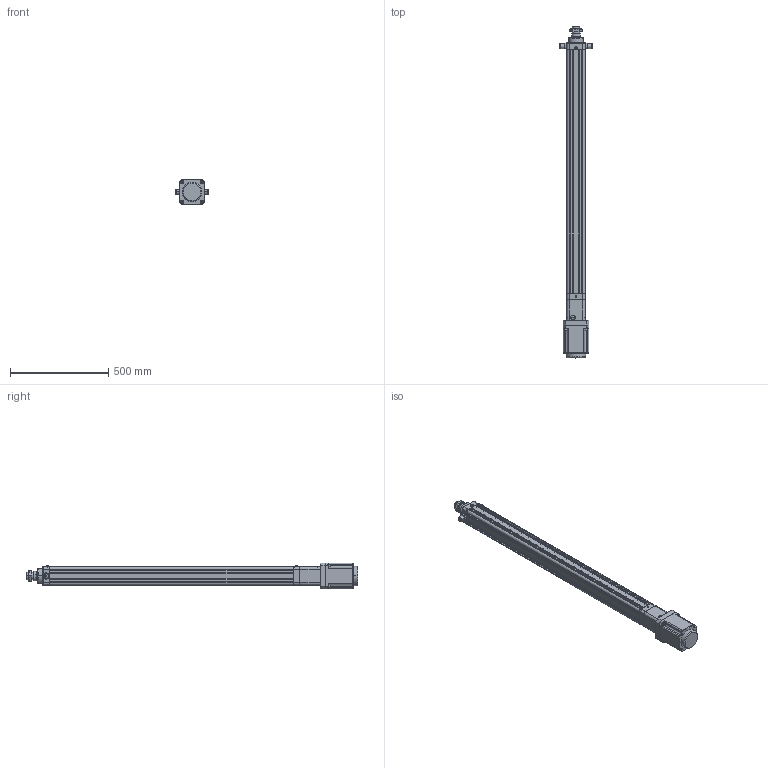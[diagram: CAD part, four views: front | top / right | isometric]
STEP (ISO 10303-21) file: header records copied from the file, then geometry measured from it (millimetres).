
FILE_DESCRIPTION((''),'2;1');
FILE_NAME('HE80-D-P_ASM','2020-05-13T',('ASUS20200'),(''),'CREO PARAMETRIC BY PTC INC, 2014190','CREO PARAMETRIC BY PTC INC, 2014190','');
FILE_SCHEMA(('CONFIG_CONTROL_DESIGN'));
Length unit declared in the file: millimetre
Products named in the file (23): HE80-D-P-001-X1; HE80-D-P-002-X1; HE80-D-P-003-X1; 30304J; YZ-M6X1; SLM-01; JDB506030; HE80-100-D-P-X1_ASM; HE80-D-009-X1; HE80-D-010-X1-130N; M10X110; SKT-20; M8X20; 130ST-M10010; JX6X6X40; TD-8; M8X40; HE80-D-P-005-X1; HE80-D-P-004-X1; HE80-D-P-008-X1; LGLM-M10-25; HE80-TC; HE80-D-P_ASM
Assembly tree (40 placements, depth 3):
  HE80-D-P_ASM
    HE80-100-D-P-X1_ASM
      HE80-D-P-001-X1
      HE80-D-P-002-X1
      HE80-D-P-003-X1
      30304J  x2
      YZ-M6X1
      SLM-01
      JDB506030
    HE80-D-009-X1
    HE80-D-010-X1-130N
    M10X110  x4
    SKT-20  x2
    M8X20  x4
    130ST-M10010
    JX6X6X40
    TD-8  x4
    M8X40  x4
    HE80-D-P-005-X1
    HE80-D-P-004-X1
    HE80-D-P-008-X1
    LGLM-M10-25  x4
    HE80-TC  x2
Bounding box: 163 x 1686 x 130.01 mm (x, y, z)
Volume: 7003817.9 mm3; surface area: 1882081.3 mm2
Topology: 39 solids, 64 shells, 1768 faces, 4113 edges, 2502 vertices
Faces by surface type: plane 619, cylinder 517, cone 504, torus 94, sphere 30, bspline 4
Entity records: 39926 total; most frequent: CARTESIAN_POINT 7904, DIRECTION 7098, ORIENTED_EDGE 6128, EDGE_CURVE 3117, AXIS2_PLACEMENT_3D 2766, VERTEX_POINT 1905, VECTOR 1566, LINE 1566
